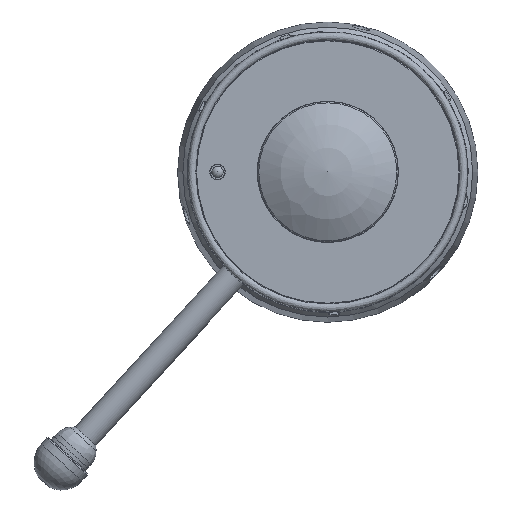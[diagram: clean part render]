
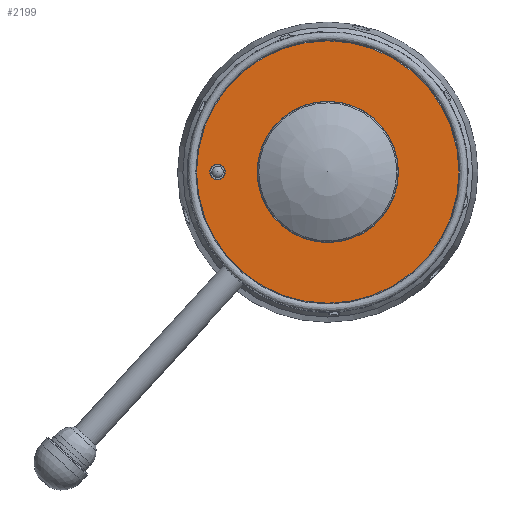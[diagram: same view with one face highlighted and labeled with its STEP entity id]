
A CAD part, top view. The second image highlights one B-rep face of the part: STEP entity #2199.
In plain terms, the highlighted planar face has unit normal (0, 0, 1).
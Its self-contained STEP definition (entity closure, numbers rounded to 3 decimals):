
#1807=FACE_BOUND('',#3022,.T.);
#1808=FACE_BOUND('',#3023,.T.);
#1809=FACE_BOUND('',#3024,.T.);
#2199=ADVANCED_FACE('',(#1807,#1808,#1809),#2388,.F.);
#2388=PLANE('',#6320);
#3022=EDGE_LOOP('',(#4208));
#3023=EDGE_LOOP('',(#4209));
#3024=EDGE_LOOP('',(#4210));
#4208=ORIENTED_EDGE('',*,*,#5312,.F.);
#4209=ORIENTED_EDGE('',*,*,#5311,.T.);
#4210=ORIENTED_EDGE('',*,*,#5310,.T.);
#4702=VERTEX_POINT('',#9903);
#4703=VERTEX_POINT('',#9906);
#4704=VERTEX_POINT('',#9909);
#5310=EDGE_CURVE('',#4702,#4702,#5670,.T.);
#5311=EDGE_CURVE('',#4703,#4703,#5671,.T.);
#5312=EDGE_CURVE('',#4704,#4704,#5672,.T.);
#5670=CIRCLE('',#6315,30.75);
#5671=CIRCLE('',#6317,3.4);
#5672=CIRCLE('',#6319,57.135);
#6315=AXIS2_PLACEMENT_3D('',#9902,#7780,#7781);
#6317=AXIS2_PLACEMENT_3D('',#9905,#7784,#7785);
#6319=AXIS2_PLACEMENT_3D('',#9908,#7788,#7789);
#6320=AXIS2_PLACEMENT_3D('',#9910,#7790,#7791);
#7780=DIRECTION('',(0.,0.,-1.));
#7781=DIRECTION('',(0.94,-0.342,0.));
#7784=DIRECTION('',(0.,0.,-1.));
#7785=DIRECTION('',(-0.342,-0.94,0.));
#7788=DIRECTION('',(0.,0.,-1.));
#7789=DIRECTION('',(-0.342,-0.94,0.));
#7790=DIRECTION('',(0.,0.,-1.));
#7791=DIRECTION('',(-0.342,-0.94,0.));
#9902=CARTESIAN_POINT('',(0.,0.,-309.));
#9903=CARTESIAN_POINT('',(28.896,-10.517,-309.));
#9905=CARTESIAN_POINT('',(-48.,0.,-309.));
#9906=CARTESIAN_POINT('',(-49.163,-3.195,-309.));
#9908=CARTESIAN_POINT('',(0.,0.,-309.));
#9909=CARTESIAN_POINT('',(-19.541,-53.689,-309.));
#9910=CARTESIAN_POINT('',(-28.896,10.517,-309.));
